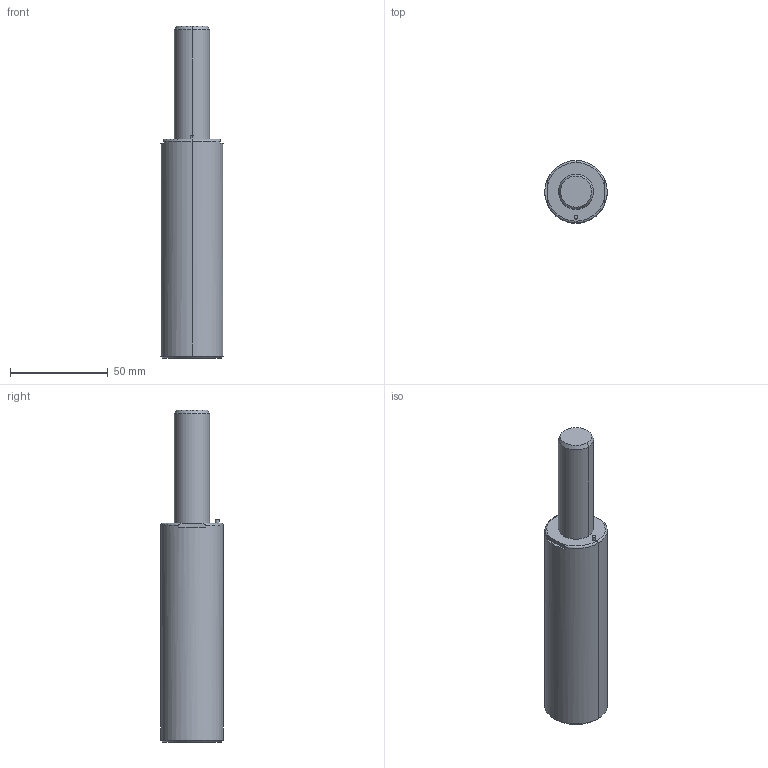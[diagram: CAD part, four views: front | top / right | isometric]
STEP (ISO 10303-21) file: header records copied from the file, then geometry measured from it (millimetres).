
FILE_DESCRIPTION(/* description */ (''),/* implementation_level */ '2;1');
FILE_NAME(/* name */ '3d_gsx32-56_03975_r00.stp',/* time_stamp */ '2011-01-10T14:15:13+09:00',/* author */ ('MISUMI'),/* organization */ (''),/* preprocessor_version */ 'ST-DEVELOPER v11',/* originating_system */ 'UGS - NX 5.0',/* authorisation */ '');
FILE_SCHEMA (('CONFIG_CONTROL_DESIGN'));
Length unit declared in the file: millimetre
Products named in the file (1): 3d_gsx32-56_03975_r00
Bounding box: 32 x 32 x 170 mm (x, y, z)
Volume: 103394.7 mm3; surface area: 16901.7 mm2
Topology: 1 solids, 1 shells, 45 faces, 98 edges, 60 vertices
Faces by surface type: cylinder 20, plane 13, cone 8, torus 4
Entity records: 1324 total; most frequent: DIRECTION 236, CARTESIAN_POINT 228, ORIENTED_EDGE 188, AXIS2_PLACEMENT_3D 100, EDGE_CURVE 94, VERTEX_POINT 60, EDGE_LOOP 54, CIRCLE 54
